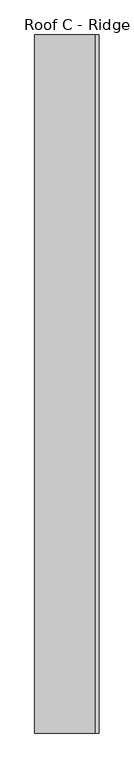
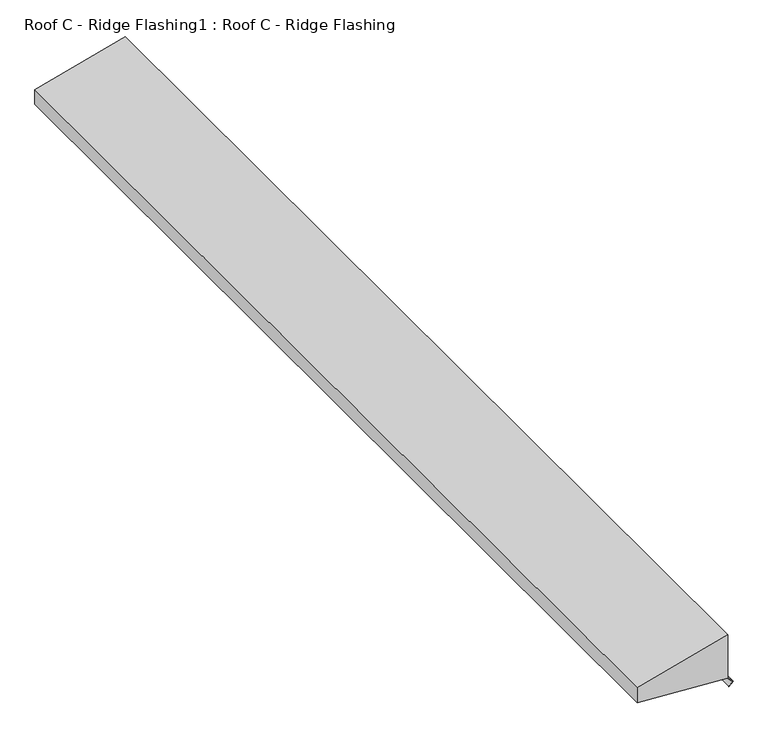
"""IFC4 building model written with IfcOpenShell, lengths in millimetres: proxy geometry, Roof C - Ridge Flashing1 : Roof C - Ridge Flashing."""

from ifc_helpers import new_model, si_unit, frame, origin, place, context, project, spatial, polyline, outline, extrude, source, transform, mapped, element, save


def roof_c_ridge_flashing1_roof_c_ridge_flashing_aa150d14(model_context):
    return source(origin(), model_context, "Body", "SweptSolid", [
        extrude(outline(polyline([(3967.9229545, -8441.7294346), (3905.4787487, -8674.7743834), (3865.4787487, -8674.7743834), (3850.5262936, -8442.7294346), (3836.7983716, -8429.0015125), (3826.8988766, -8438.9010075), (3826.1917698, -8438.1939007), (3836.7983716, -8427.587299), (3850.9405072, -8441.7294346), (3967.9229545, -8441.7294346)])), frame((0.0, -24755.8632246, 0.0), z_axis=(0.0, 1.0, 0.0), x_axis=(0.0, 0.0, 1.0)), (0.0, 0.0, 1.0), 2685.4270476),
    ])


if __name__ == "__main__":
    model = new_model("IFC4")
    model_context = context("Model", 3, world=origin())
    ifc_project = project(units=[si_unit("LENGTHUNIT", "METRE", prefix="MILLI")], contexts=[model_context])
    site = spatial("IfcSite", under=ifc_project)
    building = spatial("IfcBuilding", under=site)
    placement = place(None, origin())
    roof_c_ridge_flashing1_roof_c_ridge_flashing_shape = roof_c_ridge_flashing1_roof_c_ridge_flashing_aa150d14(model_context)
    element("IfcBuildingElementProxy", 1, Name="Roof C - Ridge Flashing1 : Roof C - Ridge Flashing", ObjectType="Roof C - Ridge Flashing1 : Roof C - Ridge Flashing", at=placement, inside=building, context=model_context, shape_type="MappedRepresentation", body=[
        mapped(roof_c_ridge_flashing1_roof_c_ridge_flashing_shape, transform((0.0, 0.0, 0.0), x_axis=(1.0, 0.0, 0.0), y_axis=(0.0, 1.0, 0.0), z_axis=(0.0, 0.0, 1.0))),
    ])
    save(model, "model.ifc")
